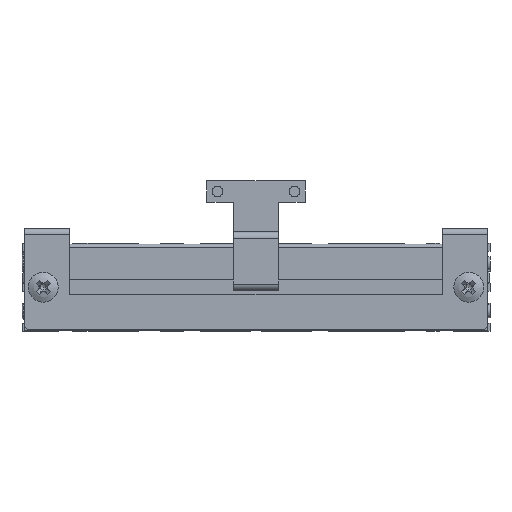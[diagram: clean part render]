
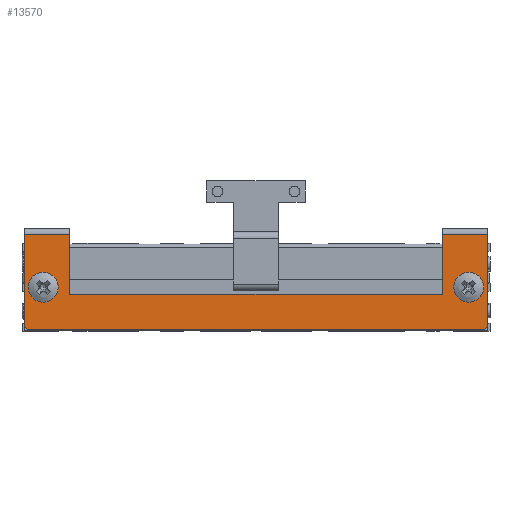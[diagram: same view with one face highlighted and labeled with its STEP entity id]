
A CAD part, front view. The second image highlights one B-rep face of the part: STEP entity #13570.
In plain terms, the highlighted planar face has unit normal (0, -1, 0).
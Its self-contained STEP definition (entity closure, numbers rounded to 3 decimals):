
#9443 = EDGE_CURVE('',#9444,#9446,#9448,.T.);
#9444 = VERTEX_POINT('',#9445);
#9445 = CARTESIAN_POINT('',(-43.5,-4.5,-1.));
#9446 = VERTEX_POINT('',#9447);
#9447 = CARTESIAN_POINT('',(-43.5,-4.5,-18.));
#9448 = LINE('',#9449,#9450);
#9449 = CARTESIAN_POINT('',(-43.5,-4.5,-1.));
#9450 = VECTOR('',#9451,1.);
#9451 = DIRECTION('',(0.,0.,-1.));
#9563 = VERTEX_POINT('',#9564);
#9564 = CARTESIAN_POINT('',(-35.,-4.5,-1.));
#9571 = EDGE_CURVE('',#9572,#9563,#9574,.T.);
#9572 = VERTEX_POINT('',#9573);
#9573 = CARTESIAN_POINT('',(-35.,-4.5,-12.35));
#9574 = LINE('',#9575,#9576);
#9575 = CARTESIAN_POINT('',(-35.,-4.5,-11.175));
#9576 = VECTOR('',#9577,1.);
#9577 = DIRECTION('',(0.,0.,1.));
#9645 = VERTEX_POINT('',#9646);
#9646 = CARTESIAN_POINT('',(35.,-4.5,-1.));
#9653 = EDGE_CURVE('',#9654,#9645,#9656,.T.);
#9654 = VERTEX_POINT('',#9655);
#9655 = CARTESIAN_POINT('',(35.,-4.5,-12.35));
#9656 = LINE('',#9657,#9658);
#9657 = CARTESIAN_POINT('',(35.,-4.5,-11.175));
#9658 = VECTOR('',#9659,1.);
#9659 = DIRECTION('',(0.,0.,1.));
#9752 = EDGE_CURVE('',#9753,#9755,#9757,.T.);
#9753 = VERTEX_POINT('',#9754);
#9754 = CARTESIAN_POINT('',(43.5,-4.5,-18.));
#9755 = VERTEX_POINT('',#9756);
#9756 = CARTESIAN_POINT('',(43.5,-4.5,-1.));
#9757 = LINE('',#9758,#9759);
#9758 = CARTESIAN_POINT('',(43.5,-4.5,-19.));
#9759 = VECTOR('',#9760,1.);
#9760 = DIRECTION('',(0.,0.,1.));
#9801 = EDGE_CURVE('',#9802,#9753,#9804,.T.);
#9802 = VERTEX_POINT('',#9803);
#9803 = CARTESIAN_POINT('',(42.5,-4.5,-19.));
#9804 = CIRCLE('',#9805,1.);
#9805 = AXIS2_PLACEMENT_3D('',#9806,#9807,#9808);
#9806 = CARTESIAN_POINT('',(42.5,-4.5,-18.));
#9807 = DIRECTION('',(0.,-1.,0.));
#9808 = DIRECTION('',(0.,0.,1.));
#9826 = EDGE_CURVE('',#9827,#9802,#9829,.T.);
#9827 = VERTEX_POINT('',#9828);
#9828 = CARTESIAN_POINT('',(-42.5,-4.5,-19.));
#9829 = LINE('',#9830,#9831);
#9830 = CARTESIAN_POINT('',(-43.5,-4.5,-19.));
#9831 = VECTOR('',#9832,1.);
#9832 = DIRECTION('',(1.,0.,0.));
#9850 = EDGE_CURVE('',#9446,#9827,#9851,.T.);
#9851 = CIRCLE('',#9852,1.);
#9852 = AXIS2_PLACEMENT_3D('',#9853,#9854,#9855);
#9853 = CARTESIAN_POINT('',(-42.5,-4.5,-18.));
#9854 = DIRECTION('',(0.,-1.,0.));
#9855 = DIRECTION('',(0.,0.,1.));
#13570 = ADVANCED_FACE('',(#13571,#13598,#13609),#13620,.T.);
#13571 = FACE_BOUND('',#13572,.T.);
#13572 = EDGE_LOOP('',(#13573,#13574,#13575,#13576,#13577,#13578,#13584,
    #13585,#13591,#13592));
#13573 = ORIENTED_EDGE('',*,*,#9443,.T.);
#13574 = ORIENTED_EDGE('',*,*,#9850,.T.);
#13575 = ORIENTED_EDGE('',*,*,#9826,.T.);
#13576 = ORIENTED_EDGE('',*,*,#9801,.T.);
#13577 = ORIENTED_EDGE('',*,*,#9752,.T.);
#13578 = ORIENTED_EDGE('',*,*,#13579,.T.);
#13579 = EDGE_CURVE('',#9755,#9645,#13580,.T.);
#13580 = LINE('',#13581,#13582);
#13581 = CARTESIAN_POINT('',(43.5,-4.5,-1.));
#13582 = VECTOR('',#13583,1.);
#13583 = DIRECTION('',(-1.,0.,0.));
#13584 = ORIENTED_EDGE('',*,*,#9653,.F.);
#13585 = ORIENTED_EDGE('',*,*,#13586,.T.);
#13586 = EDGE_CURVE('',#9654,#9572,#13587,.T.);
#13587 = LINE('',#13588,#13589);
#13588 = CARTESIAN_POINT('',(-17.5,-4.5,-12.35));
#13589 = VECTOR('',#13590,1.);
#13590 = DIRECTION('',(-1.,0.,0.));
#13591 = ORIENTED_EDGE('',*,*,#9571,.T.);
#13592 = ORIENTED_EDGE('',*,*,#13593,.T.);
#13593 = EDGE_CURVE('',#9563,#9444,#13594,.T.);
#13594 = LINE('',#13595,#13596);
#13595 = CARTESIAN_POINT('',(43.5,-4.5,-1.));
#13596 = VECTOR('',#13597,1.);
#13597 = DIRECTION('',(-1.,0.,0.));
#13598 = FACE_BOUND('',#13599,.T.);
#13599 = EDGE_LOOP('',(#13600));
#13600 = ORIENTED_EDGE('',*,*,#13601,.T.);
#13601 = EDGE_CURVE('',#13602,#13602,#13604,.T.);
#13602 = VERTEX_POINT('',#13603);
#13603 = CARTESIAN_POINT('',(-37.2,-4.5,-11.));
#13604 = CIRCLE('',#13605,2.8);
#13605 = AXIS2_PLACEMENT_3D('',#13606,#13607,#13608);
#13606 = CARTESIAN_POINT('',(-40.,-4.5,-11.));
#13607 = DIRECTION('',(-0.,1.,0.));
#13608 = DIRECTION('',(1.,0.,0.));
#13609 = FACE_BOUND('',#13610,.T.);
#13610 = EDGE_LOOP('',(#13611));
#13611 = ORIENTED_EDGE('',*,*,#13612,.T.);
#13612 = EDGE_CURVE('',#13613,#13613,#13615,.T.);
#13613 = VERTEX_POINT('',#13614);
#13614 = CARTESIAN_POINT('',(42.8,-4.5,-11.));
#13615 = CIRCLE('',#13616,2.8);
#13616 = AXIS2_PLACEMENT_3D('',#13617,#13618,#13619);
#13617 = CARTESIAN_POINT('',(40.,-4.5,-11.));
#13618 = DIRECTION('',(-0.,1.,0.));
#13619 = DIRECTION('',(1.,0.,0.));
#13620 = PLANE('',#13621);
#13621 = AXIS2_PLACEMENT_3D('',#13622,#13623,#13624);
#13622 = CARTESIAN_POINT('',(0.,-4.5,-10.));
#13623 = DIRECTION('',(0.,-1.,0.));
#13624 = DIRECTION('',(1.,0.,0.));
